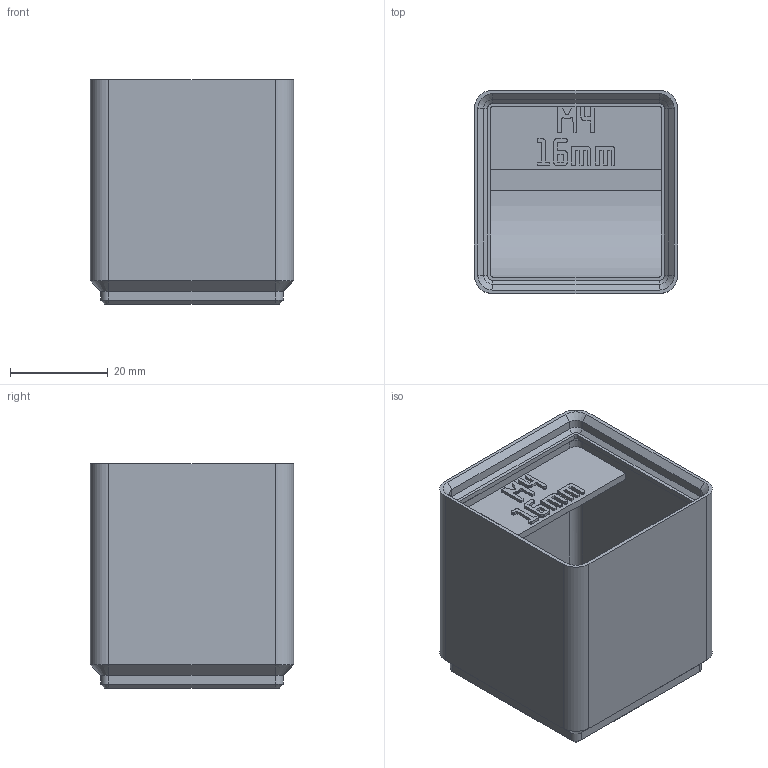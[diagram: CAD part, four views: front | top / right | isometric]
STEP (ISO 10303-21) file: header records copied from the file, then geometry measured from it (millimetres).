
FILE_DESCRIPTION(('Open CASCADE Model'),'2;1');
FILE_NAME('Open CASCADE Shape Model','2026-11-03T10:25:09',('Author'),( 'Open CASCADE'),'Open CASCADE STEP processor 8.0','build123d', 'Unknown');
FILE_SCHEMA(('AUTOMOTIVE_DESIGN { 1 0 10303 214 1 1 1 1 }'));
Length unit declared in the file: millimetre
Products named in the file (1): COMPOUND
Bounding box: 41.5 x 41.5 x 45.8 mm (x, y, z)
Volume: 30322 mm3; surface area: 16389.6 mm2
Topology: 1 solids, 1 shells, 652 faces, 1867 edges, 1226 vertices
Faces by surface type: plane 609, cylinder 23, cone 20
Entity records: 43978 total; most frequent: CARTESIAN_POINT 9030, DIRECTION 5633, LINE 4199, VECTOR 4199, ORIENTED_EDGE 3734, PCURVE 3734, DEFINITIONAL_REPRESENTATION 3734, EDGE_CURVE 1867
